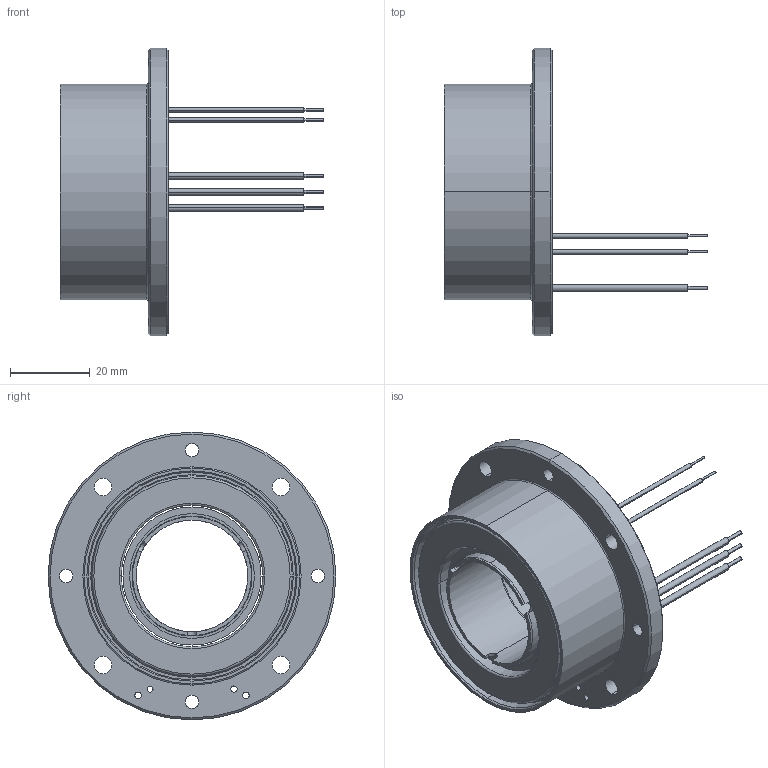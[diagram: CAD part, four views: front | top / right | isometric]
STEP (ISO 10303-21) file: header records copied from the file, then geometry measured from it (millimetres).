
FILE_DESCRIPTION((''),'2;1');
FILE_NAME('8284624_SW0002','2021-11-23T14:30:25',('mmagvisi'),(''),'CREO PARAMETRIC BY PTC INC, 2020342','CREO PARAMETRIC BY PTC INC, 2020342','');
FILE_SCHEMA(('CONFIG_CONTROL_DESIGN','SHAPE_APPEARANCE_LAYERS_GROUPS'));
Length unit declared in the file: millimetre
Products named in the file (1): 8284624_SW0002
Bounding box: 66 x 72 x 72 mm (x, y, z)
Volume: 46857.1 mm3; surface area: 21009.1 mm2
Topology: 2 solids, 2 shells, 135 faces, 325 edges, 210 vertices
Faces by surface type: cylinder 75, plane 35, cone 17, torus 8
Entity records: 6362 total; most frequent: CARTESIAN_POINT 923, DIRECTION 742, ORIENTED_EDGE 650, PRESENTATION_STYLE_ASSIGNMENT 456, STYLED_ITEM 327, CURVE_STYLE 325, EDGE_CURVE 325, AXIS2_PLACEMENT_3D 310
